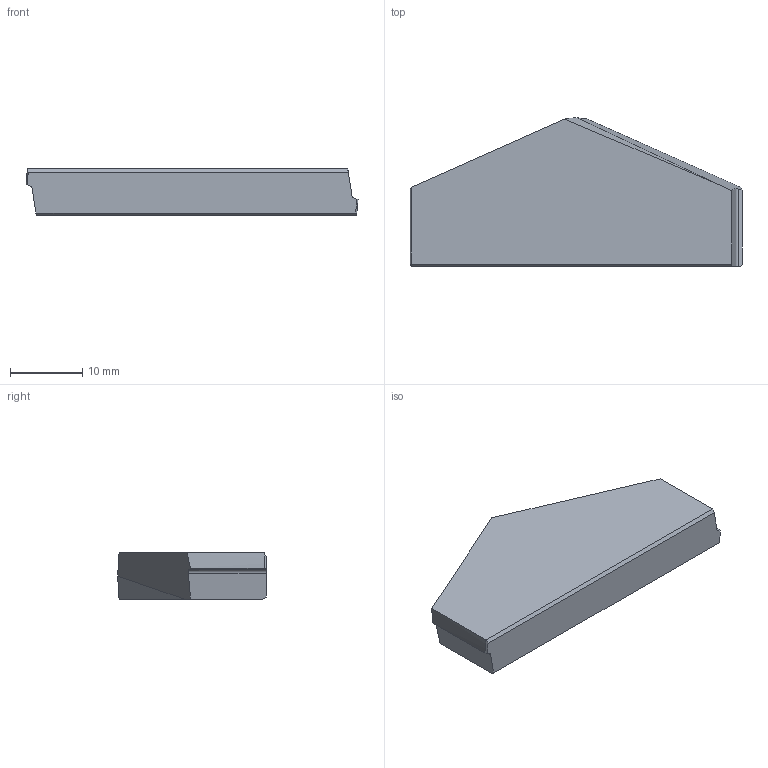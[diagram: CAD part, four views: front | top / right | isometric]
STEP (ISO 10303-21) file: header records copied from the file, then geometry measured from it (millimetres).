
FILE_DESCRIPTION (( 'STEP AP214' ), '1' );
FILE_NAME ('02-1066.STEP', '2022-06-24T05:59:00', ( '' ), ( '' ), 'SwSTEP 2.0', 'SolidWorks 2018', '' );
FILE_SCHEMA (( 'AUTOMOTIVE_DESIGN' ));
Length unit declared in the file: millimetre
Products named in the file (1): 02-1066
Bounding box: 45.99 x 20.6 x 6.4 mm (x, y, z)
Volume: 4442.3 mm3; surface area: 2111 mm2
Topology: 1 solids, 1 shells, 19 faces, 50 edges, 33 vertices
Faces by surface type: plane 13, cylinder 4, cone 2
Entity records: 620 total; most frequent: CARTESIAN_POINT 133, ORIENTED_EDGE 100, DIRECTION 86, EDGE_CURVE 50, LINE 34, VECTOR 34, VERTEX_POINT 33, AXIS2_PLACEMENT_3D 26
